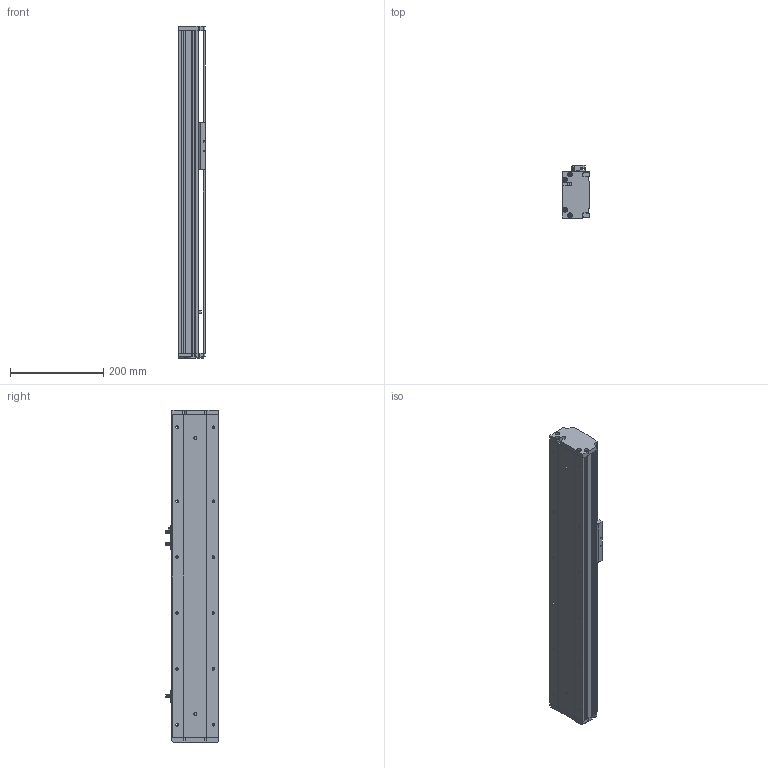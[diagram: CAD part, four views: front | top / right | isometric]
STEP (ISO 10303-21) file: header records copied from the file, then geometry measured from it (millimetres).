
FILE_DESCRIPTION (( 'STEP AP214' ), '1' );
FILE_NAME ('KSD100S-S350-M-CM.STEP', '2019-08-30T02:35:32', ( '微软用户' ), ( '微软中国' ), 'SwSTEP 2.0', 'SolidWorks 2014', '' );
FILE_SCHEMA (( 'AUTOMOTIVE_DESIGN' ));
Length unit declared in the file: millimetre
Products named in the file (8): 100遵傷啣; 100宽底板半封闭丝杆350行程电机内装; KSD100S-S350-M-CM; 覜茼え100遵圉猾敕; U倰嫖萇EEㄜSX672; 100宽防尘板丝杆350行程电机内装; 100宽马达安装板-电机内装; 100宽滚珠螺姆安装板半封闭
Assembly tree (9 placements, depth 2):
  KSD100S-S350-M-CM
    100宽底板半封闭丝杆350行程电机内装
    100遵傷啣
    100宽滚珠螺姆安装板半封闭
    100宽马达安装板-电机内装
    100宽防尘板丝杆350行程电机内装
    U倰嫖萇EEㄜSX672  x3
    覜茼え100遵圉猾敕
Bounding box: 60 x 113.7 x 713 mm (x, y, z)
Volume: 1433371.1 mm3; surface area: 518577.7 mm2
Topology: 9 solids, 9 shells, 987 faces, 2798 edges, 1773 vertices
Faces by surface type: cylinder 446, plane 436, cone 105
Entity records: 33440 total; most frequent: CARTESIAN_POINT 6534, DIRECTION 4379, ORIENTED_EDGE 4288, EDGE_CURVE 2144, AXIS2_PLACEMENT_3D 1558, VERTEX_POINT 1397, LINE 1263, VECTOR 1263
